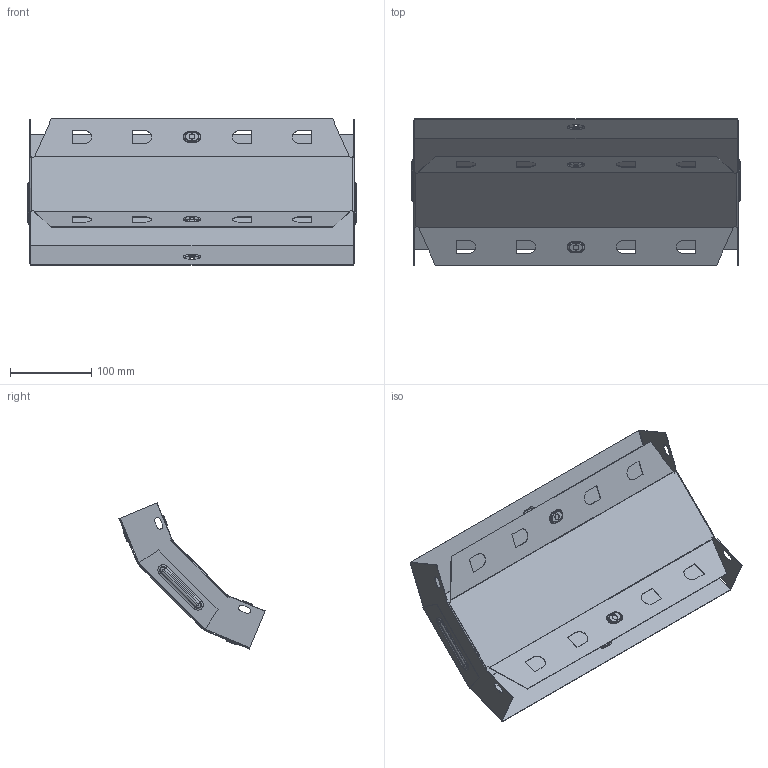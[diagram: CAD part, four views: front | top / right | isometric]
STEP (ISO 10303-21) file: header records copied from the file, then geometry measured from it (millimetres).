
FILE_DESCRIPTION (( 'STEP AP214' ), '1' );
FILE_NAME ('vo4550400_捘.STEP', '2019-06-10T08:19:06', ( '砐錪賧瘔蠈錪 Windows' ), ( '' ), 'SwSTEP 2.0', 'SolidWorks 2018', '' );
FILE_SCHEMA (( 'AUTOMOTIVE_DESIGN' ));
Length unit declared in the file: millimetre
Products named in the file (1): vo4550400_捘
Bounding box: 405.6 x 180.14 x 180.14 mm (x, y, z)
Volume: 154687.5 mm3; surface area: 389945.7 mm2
Topology: 2 solids, 2 shells, 384 faces, 954 edges, 596 vertices
Faces by surface type: plane 189, cylinder 114, torus 64, bspline 17
Entity records: 12018 total; most frequent: CARTESIAN_POINT 2691, DIRECTION 1948, ORIENTED_EDGE 1908, EDGE_CURVE 954, AXIS2_PLACEMENT_3D 676, VECTOR 596, VERTEX_POINT 596, LINE 596
